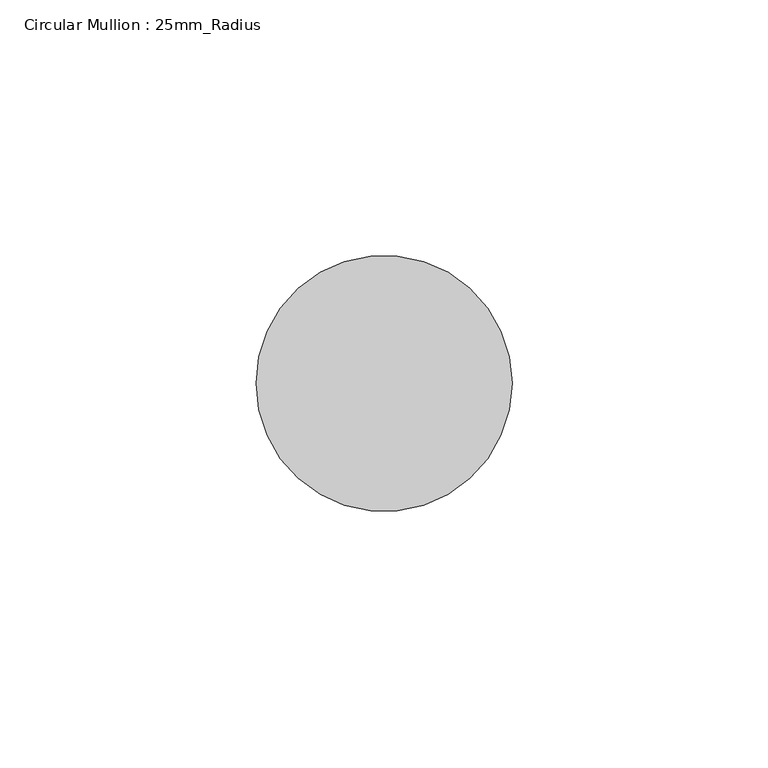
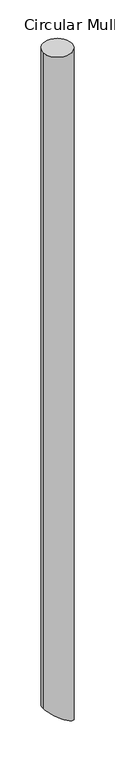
"""IFC4 building model written with IfcOpenShell, lengths in millimetres: member geometry, Circular Mullion : 25mm_Radius."""

from ifc_helpers import new_model, si_unit, frame, origin, place, context, project, spatial, circle_curve, ellipse_curve, source, transform, mapped, element, save
from ifc_brep_helpers import plane_surface, cylinder_surface, advanced_brep


def circular_mullion_25mm_radius_2864c737(model_context):
    return source(origin(), model_context, "Body", "AdvancedBrep", [
        advanced_brep(
        [(-50.0, 0.0, 0.0), (0.0, 0.0, 0.0), (0.0, 0.0, -1231.6099153), (-50.0, 0.0, -1201.2763356)],
        [
            (0, 1, circle_curve(frame((-25.0, 0.0, 0.0), z_axis=(0.0, 0.0, -1.0), x_axis=(1.0, 0.0, 0.0)), 25.0)),
            (1, 2),
            (2, 3, ellipse_curve(frame((-25.0, 0.0, -1216.4431254), z_axis=(0.5186837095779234, 0.0, 0.8549662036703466), x_axis=(-0.8549662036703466, 0.0, 0.5186837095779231)), 29.2409219, 25.0)),
            (3, 0),
            (1, 0, circle_curve(frame((-25.0, 0.0, 0.0), z_axis=(0.0, 0.0, -1.0), x_axis=(1.0, 0.0, 0.0)), 25.0)),
            (3, 2, ellipse_curve(frame((-25.0, 0.0, -1216.4431254), z_axis=(0.5186837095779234, 0.0, 0.8549662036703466), x_axis=(-0.8549662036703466, 0.0, 0.5186837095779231)), 29.2409219, 25.0)),
        ],
        [
            cylinder_surface(frame((-25.0, 0.0, 0.0), z_axis=(0.0, 0.0, 1.0), x_axis=(1.0, 0.0, 0.0)), 25.0),
            plane_surface(frame((-304.8, 0.0, 0.0), z_axis=(0.0, 0.0, 1.0), x_axis=(0.0, 1.0, 0.0))),
            plane_surface(frame((0.0, -304.8, -1231.6099153), z_axis=(-0.5186837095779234, 0.0, -0.8549662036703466), x_axis=(-0.8549662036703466, 0.0, 0.5186837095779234))),
        ],
        [
            (0, [[1, 2, 3, 4]]),
            (0, [[5, -4, 6, -2]]),
            (1, [[-1, -5]]),
            (2, [[-6, -3]]),
        ],
    ),
    ])


if __name__ == "__main__":
    model = new_model("IFC4")
    model_context = context("Model", 3, world=origin())
    ifc_project = project(units=[si_unit("LENGTHUNIT", "METRE", prefix="MILLI")], contexts=[model_context])
    site = spatial("IfcSite", under=ifc_project)
    building = spatial("IfcBuilding", under=site)
    placement = place(None, origin())
    circular_mullion_25mm_radius_shape = circular_mullion_25mm_radius_2864c737(model_context)
    element("IfcMember", 1, ObjectType="Circular Mullion : 25mm_Radius", at=placement, inside=building, context=model_context, shape_type="MappedRepresentation", body=[
        mapped(circular_mullion_25mm_radius_shape, transform((0.0, 0.0, 0.0), x_axis=(1.0, 0.0, 0.0), y_axis=(0.0, 1.0, 0.0), z_axis=(0.0, 0.0, 1.0))),
    ])
    save(model, "model.ifc")
